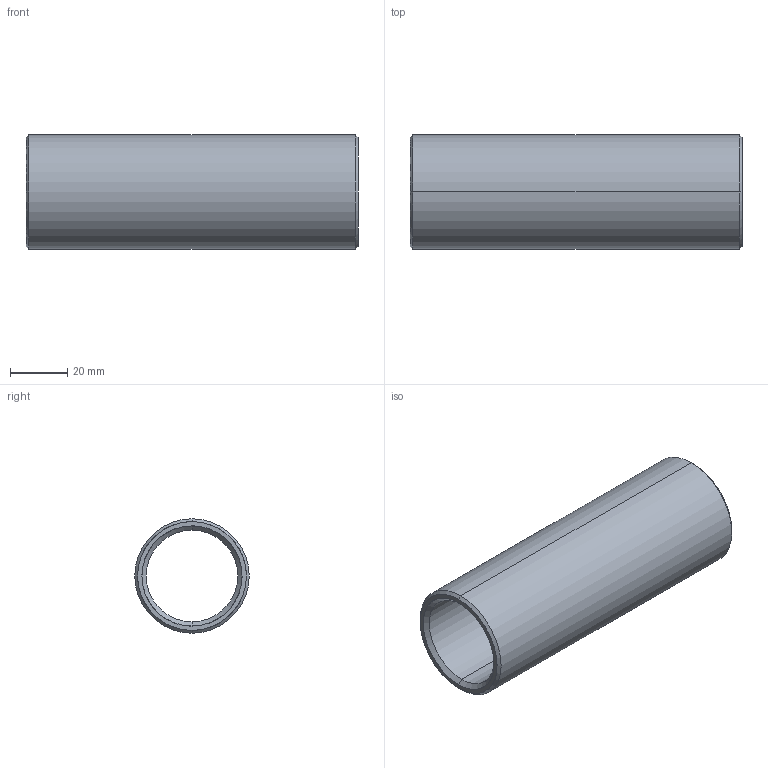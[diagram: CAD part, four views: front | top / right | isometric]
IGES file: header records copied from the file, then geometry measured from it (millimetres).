
Start section: START RECORD GO HERE.
Global section: file name: 352-32X116.igs; native system: DASSAULT SYSTEMES CATIA V5 R20 - www.3ds.com; preprocessor: CATIA Version 5 Release 20 ; author: Utente; organization: NB04-ASUS; date: 20210414.165650; units: millimetre
Bounding box: 116 x 40 x 40 mm (x, y, z)
Surface area: 26865.4 mm2 (no closed solid volume)
Topology: 0 solids, 0 shells, 14 faces, 88 edges, 88 vertices
Faces by surface type: revolution 12, plane 2
